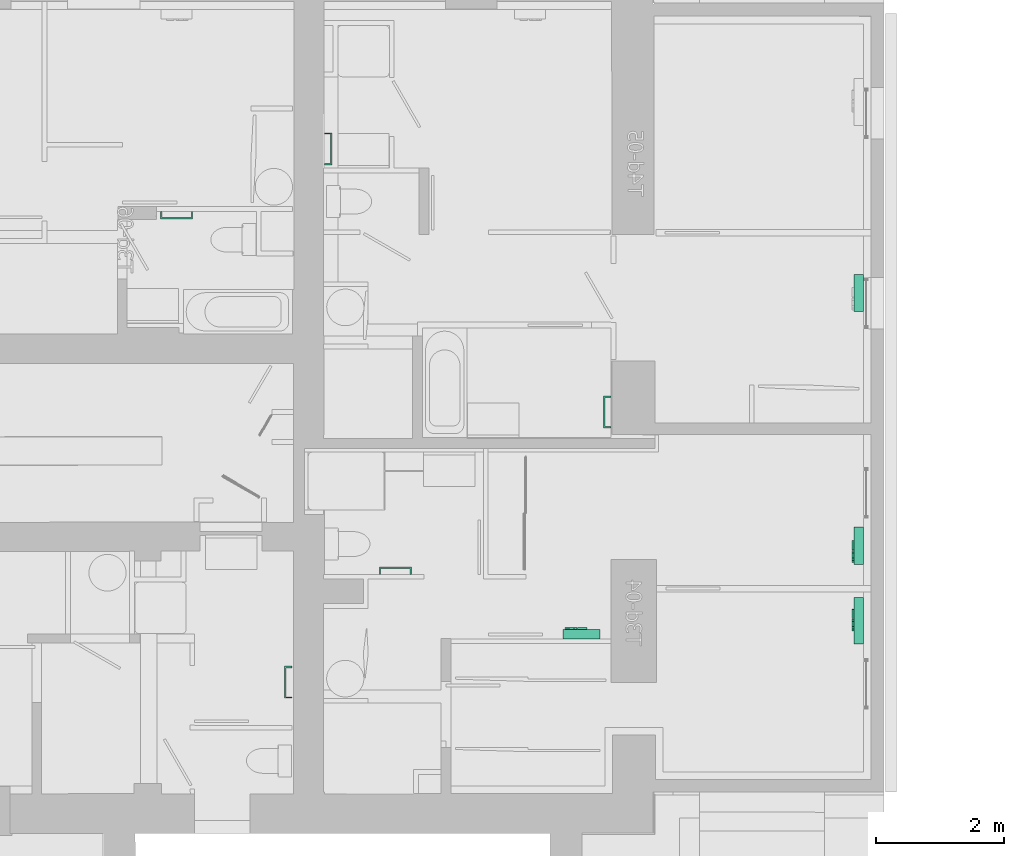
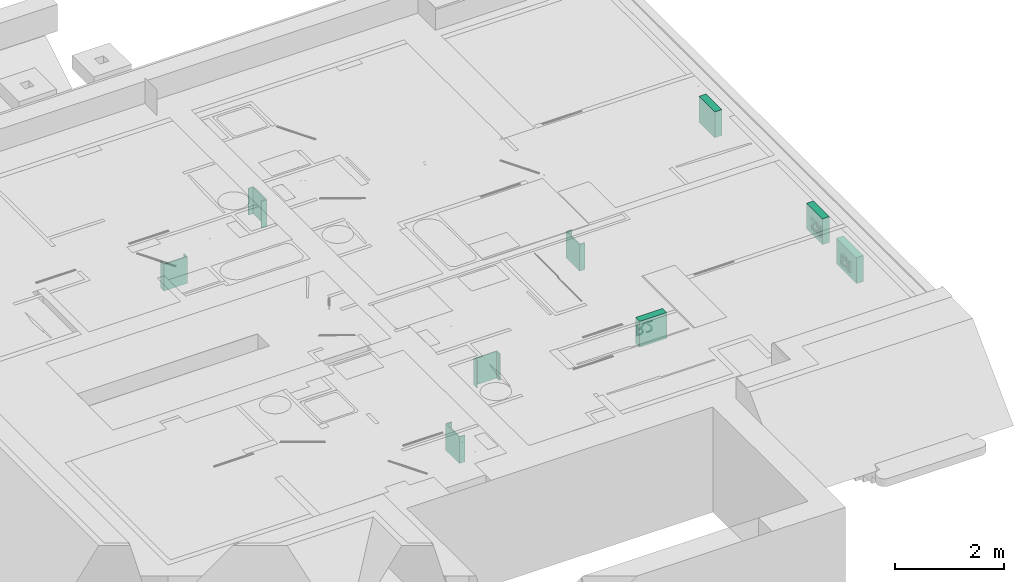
# Not in any storey, part 4 of 22: 12 distribution flow elements.
"""IFC4 model written with IfcOpenShell, lengths in metres."""

import ifcopenshell
import ifcopenshell.guid

model = None  # the IFC model being written
_history = None  # IfcOwnerHistory: only IFC2X3 demands one
_inside = {}  # id of a spatial element -> (the spatial element, [elements in it])
_under = {}  # id of a project, library or spatial element -> (it, [spatial elements below it])
_declared = {}  # id of a project -> (the project, [libraries it declares])
_typed = {}  # id of a type object -> (the type object, [elements of that type])
_made_of = {}  # id of a material, layer set ... -> (it, [elements and type objects made of it])


def new_model(schema):
    """Start an empty IFC model of exactly this schema.

    Asked for "IFC4X3", IfcOpenShell would pick the latest addendum, in which some entities
    have other attributes; the version numbers below select the first issue.
    IFC2X3 requires an IfcOwnerHistory on every rooted entity: one is made here for all.
    """
    global model, _history
    if schema == "IFC4X3":
        model = ifcopenshell.file(schema_version=(4, 3, 0, 0))
    else:
        model = ifcopenshell.file(schema=schema)
    _inside.clear()
    _under.clear()
    _declared.clear()
    _typed.clear()
    _made_of.clear()
    _history = None
    if model.schema == "IFC2X3":
        org = make("IfcOrganization", Name="unknown")
        user = make(
            "IfcPersonAndOrganization",
            ThePerson=make("IfcPerson", FamilyName="unknown"),
            TheOrganization=org,
        )
        app = make(
            "IfcApplication",
            ApplicationDeveloper=org,
            Version="unknown",
            ApplicationFullName="unknown",
            ApplicationIdentifier="unknown",
        )
        _history = make(
            "IfcOwnerHistory",
            OwningUser=user,
            OwningApplication=app,
            ChangeAction="ADDED",
            CreationDate=0,
        )
    return model


def make(cls, **values):
    """One entity of the class cls with the attributes given. An attribute that is None is left unset."""
    return model.create_entity(
        cls, **{name: value for name, value in values.items() if value is not None}
    )


def rooted(cls, **values):
    """An entity with a GlobalId (a new one), such as an element, a storey or a relation."""
    return make(cls, GlobalId=ifcopenshell.guid.new(), OwnerHistory=_history, **values)


def si_unit(unit_type, name, prefix=None):
    """IfcSIUnit, for example si_unit("LENGTHUNIT", "METRE", prefix="MILLI")."""
    return make("IfcSIUnit", UnitType=unit_type, Prefix=prefix, Name=name)


def assignment(units):
    """IfcUnitAssignment: the units of a project."""
    return None if units is None else make("IfcUnitAssignment", Units=units)


def point(xyz):
    """IfcCartesianPoint."""
    return None if xyz is None else make("IfcCartesianPoint", Coordinates=xyz)


def direction(xyz):
    """IfcDirection."""
    return None if xyz is None else make("IfcDirection", DirectionRatios=xyz)


def frame(location, z_axis=None, x_axis=None):
    """IfcAxis2Placement3D, a coordinate frame: its origin and axes. An axis left out is left unset."""
    return make(
        "IfcAxis2Placement3D",
        Location=point(location),
        Axis=direction(z_axis),
        RefDirection=direction(x_axis),
    )


def origin_with_axes():
    """The frame at (0, 0, 0) with the z axis (0, 0, 1) and the x axis (1, 0, 0) written out."""
    return frame((0.0, 0.0, 0.0), z_axis=(0.0, 0.0, 1.0), x_axis=(1.0, 0.0, 0.0))


def place(relative_to, where):
    """IfcLocalPlacement: puts the frame where relative to a parent placement (None: the world)."""
    return make(
        "IfcLocalPlacement", PlacementRelTo=relative_to, RelativePlacement=where
    )


def context(
    kind, dimensions, precision=None, world=None, true_north=None, identifier=None
):
    """IfcGeometricRepresentationContext, for example the 3D "Model" context."""
    return make(
        "IfcGeometricRepresentationContext",
        ContextIdentifier=identifier,
        ContextType=kind,
        CoordinateSpaceDimension=dimensions,
        Precision=precision,
        WorldCoordinateSystem=world,
        TrueNorth=true_north,
    )


def subcontext(parent, identifier, kind, view, scale=None):
    """IfcGeometricRepresentationSubContext, for example "Body" below "Model"."""
    return make(
        "IfcGeometricRepresentationSubContext",
        ContextIdentifier=identifier,
        ContextType=kind,
        ParentContext=parent,
        TargetScale=scale,
        TargetView=view,
    )


def project(units=None, contexts=None):
    """IfcProject with its units and contexts."""
    return rooted(
        "IfcProject",
        Name="project",
        RepresentationContexts=contexts,
        UnitsInContext=assignment(units),
    )


def faces_of(points, faces, orient=None, outer=None):
    """IfcFace entities. A face is a list of loops; a loop is a list of indices into points, from 0.

    orient and outer hold one flag for each loop. By default every Orientation is true, the
    first loop of a face is its IfcFaceOuterBound and the others are IfcFaceBound.
    """
    made = []
    for i, loops in enumerate(faces):
        bounds = []
        for j, loop in enumerate(loops):
            is_outer = j == 0 if outer is None else outer[i][j]
            bounds.append(
                make(
                    "IfcFaceOuterBound" if is_outer else "IfcFaceBound",
                    Bound=make("IfcPolyLoop", Polygon=[points[k] for k in loop]),
                    Orientation=True if orient is None else orient[i][j],
                )
            )
        made.append(make("IfcFace", Bounds=bounds))
    return made


def faceted_brep(points, faces, orient=None, outer=None, voids=None):
    """IfcFacetedBrep: a solid bounded by flat faces; with voids (closed shells), ...WithVoids."""
    shared = [point(p) for p in points]
    hull = make("IfcClosedShell", CfsFaces=faces_of(shared, faces, orient, outer))
    if voids is None:
        return make("IfcFacetedBrep", Outer=hull)
    return make(
        "IfcFacetedBrepWithVoids",
        Outer=hull,
        Voids=[
            make(cls, CfsFaces=faces_of(shared, fs, o, b)) for cls, fs, o, b in voids
        ],
    )


def shape(context_of_items, identifier, shape_type, items):
    """IfcShapeRepresentation: the items that make up one representation, for example the "Body"."""
    return make(
        "IfcShapeRepresentation",
        ContextOfItems=context_of_items,
        RepresentationIdentifier=identifier,
        RepresentationType=shape_type,
        Items=items,
    )


def made_of(thing, what):
    """Note that an element or type object is made of a material, layer set ...; save() writes the relation."""
    if what is not None:
        _made_of.setdefault(what.id(), (what, []))[1].append(thing)
    return thing


def element(
    cls,
    number,
    at=None,
    inside=None,
    cuts=None,
    type_object=None,
    material=None,
    context=None,
    identifier="Body",
    shape_type=None,
    held_by="IfcProductDefinitionShape",
    body=None,
    shapes=None,
    **own,
):
    """One element of the class cls, such as IfcWall. Its Tag is "e" and its number.

    at: its placement. inside: the storey or other place that contains it. cuts: it is an
    opening in that element (IfcRelVoidsElement). A single representation is given by context,
    identifier, shape_type and body (its items); several are given by shapes. held_by: the class
    of the entity that holds the representations. save() writes the other relations.
    """
    e = rooted(cls, Tag="e%d" % number, ObjectPlacement=at, **own)
    if body is not None:
        shapes = [shape(context, identifier, shape_type, body)]
    if shapes is not None:
        e.Representation = make(held_by, Representations=shapes)
    if inside is not None:
        _inside.setdefault(inside.id(), (inside, []))[1].append(e)
    if cuts is not None:
        rooted(
            "IfcRelVoidsElement", RelatingBuildingElement=cuts, RelatedOpeningElement=e
        )
    if type_object is not None:
        _typed.setdefault(type_object.id(), (type_object, []))[1].append(e)
    return made_of(e, material)


def aggregate(whole, parts):
    """IfcRelAggregates: a whole, such as a stair, and the parts it consists of."""
    return rooted("IfcRelAggregates", RelatingObject=whole, RelatedObjects=parts)


def save(model, path):
    """Write the relations noted so far, then the file.

    IfcRelAggregates (storeys below a building ...), IfcRelContainedInSpatialStructure (elements
    in a storey), IfcRelDefinesByType, IfcRelAssociatesMaterial and IfcRelDeclares: one each for
    every whole, place, type object, material and project.
    """
    for whole, parts in _under.values():
        aggregate(whole, parts)
    for where, things in _inside.values():
        rooted(
            "IfcRelContainedInSpatialStructure",
            RelatedElements=things,
            RelatingStructure=where,
        )
    for kind, things in _typed.values():
        rooted("IfcRelDefinesByType", RelatedObjects=things, RelatingType=kind)
    for what, things in _made_of.values():
        rooted("IfcRelAssociatesMaterial", RelatedObjects=things, RelatingMaterial=what)
    for by, libraries in _declared.values():
        rooted("IfcRelDeclares", RelatingContext=by, RelatedDefinitions=libraries)
    model.write(path)


model = new_model("IFC4")

# Units and contexts
model_context = context("Model", 3, precision=1e-05, world=origin_with_axes(), true_north=direction((1.0, 0.0)))
body_context = subcontext(model_context, "Body", "Model", "MODEL_VIEW")
ifc_project = project(units=[si_unit("LENGTHUNIT", "METRE"), si_unit("AREAUNIT", "SQUARE_METRE"), si_unit("VOLUMEUNIT", "CUBIC_METRE"), si_unit("MASSUNIT", "GRAM", prefix="KILO"), si_unit("TIMEUNIT", "SECOND"), si_unit("PLANEANGLEUNIT", "RADIAN"), si_unit("SOLIDANGLEUNIT", "STERADIAN")], contexts=[model_context])

# Distribution flow elements
placement = place(None, origin_with_axes())
element("IfcDistributionFlowElement", 1, at=placement, Name="SS", context=body_context, shape_type="Brep", body=[
    faceted_brep([(153.068451, 22.871905, 1.21), (153.068451, 22.854971, 1.21), (152.949926, 22.854971, 1.21), (152.949926, 23.354466, 1.21), (153.068451, 23.354466, 1.21), (153.068451, 23.329067, 1.21), (152.975324, 23.329067, 1.21), (152.975324, 22.871905, 1.21), (153.068451, 22.854971, 1.81), (152.949926, 22.854971, 1.81), (152.949926, 23.354466, 1.81), (153.068451, 23.354466, 1.81), (153.068451, 23.329067, 1.81), (152.975324, 23.329067, 1.81), (152.975324, 22.871905, 1.81), (153.068451, 22.871905, 1.81)], [[[0, 1, 2, 3, 4, 5, 6, 7]], [[8, 9, 2, 1]], [[9, 10, 3, 2]], [[10, 11, 4, 3]], [[12, 13, 6, 5]], [[14, 15, 0, 7]]]),
    faceted_brep([(153.068451, 22.854971, 1.81), (153.068451, 22.871905, 1.81), (152.975324, 22.871905, 1.81), (152.975324, 23.329067, 1.81), (153.068451, 23.329067, 1.81), (153.068451, 23.354466, 1.81), (152.949926, 23.354466, 1.81), (152.949926, 22.854971, 1.81), (153.068451, 22.854971, 1.21), (153.068451, 22.871905, 1.21), (153.068451, 23.329067, 1.21), (153.068451, 23.354466, 1.21), (152.975324, 22.871905, 1.21), (152.975324, 23.329067, 1.21)], [[[0, 1, 2, 3, 4, 5, 6, 7]], [[1, 0, 8, 9]], [[5, 4, 10, 11]], [[3, 2, 12, 13]]]),
])
element("IfcDistributionFlowElement", 2, at=placement, Name="SS", context=body_context, shape_type="Brep", body=[
    faceted_brep([(146.498838, 26.241369, 1.21), (146.515772, 26.241369, 1.21), (146.515772, 26.122844, 1.21), (146.016277, 26.122844, 1.21), (146.016277, 26.241369, 1.21), (146.041676, 26.241369, 1.21), (146.041676, 26.148242, 1.21), (146.498838, 26.148242, 1.21), (146.515772, 26.241369, 1.81), (146.515772, 26.122844, 1.81), (146.016277, 26.122844, 1.81), (146.016277, 26.241369, 1.81), (146.041676, 26.241369, 1.81), (146.041676, 26.148242, 1.81), (146.498838, 26.148242, 1.81), (146.498838, 26.241369, 1.81)], [[[0, 1, 2, 3, 4, 5, 6, 7]], [[8, 9, 2, 1]], [[9, 10, 3, 2]], [[10, 11, 4, 3]], [[12, 13, 6, 5]], [[14, 15, 0, 7]]]),
    faceted_brep([(146.515772, 26.241369, 1.81), (146.498838, 26.241369, 1.81), (146.498838, 26.148242, 1.81), (146.041676, 26.148242, 1.81), (146.041676, 26.241369, 1.81), (146.016277, 26.241369, 1.81), (146.016277, 26.122844, 1.81), (146.515772, 26.122844, 1.81), (146.515772, 26.241369, 1.21), (146.498838, 26.241369, 1.21), (146.041676, 26.241369, 1.21), (146.016277, 26.241369, 1.21), (146.498838, 26.148242, 1.21), (146.041676, 26.148242, 1.21)], [[[0, 1, 2, 3, 4, 5, 6, 7]], [[1, 0, 8, 9]], [[5, 4, 10, 11]], [[3, 2, 12, 13]]]),
])
element("IfcDistributionFlowElement", 3, at=placement, Name="SS", context=body_context, shape_type="Brep", body=[
    faceted_brep([(148.581474, 27.452006, 1.21), (148.581474, 27.46894, 1.21), (148.699999, 27.46894, 1.21), (148.699999, 26.969445, 1.21), (148.581474, 26.969445, 1.21), (148.581474, 26.994844, 1.21), (148.674601, 26.994844, 1.21), (148.674601, 27.452006, 1.21), (148.581474, 27.46894, 1.81), (148.699999, 27.46894, 1.81), (148.699999, 26.969445, 1.81), (148.581474, 26.969445, 1.81), (148.581474, 26.994844, 1.81), (148.674601, 26.994844, 1.81), (148.674601, 27.452006, 1.81), (148.581474, 27.452006, 1.81)], [[[0, 1, 2, 3, 4, 5, 6, 7]], [[8, 9, 2, 1]], [[9, 10, 3, 2]], [[10, 11, 4, 3]], [[12, 13, 6, 5]], [[14, 15, 0, 7]]]),
    faceted_brep([(148.581474, 27.46894, 1.81), (148.581474, 27.452006, 1.81), (148.674601, 27.452006, 1.81), (148.674601, 26.994844, 1.81), (148.581474, 26.994844, 1.81), (148.581474, 26.969445, 1.81), (148.699999, 26.969445, 1.81), (148.699999, 27.46894, 1.81), (148.581474, 27.46894, 1.21), (148.581474, 27.452006, 1.21), (148.581474, 26.994844, 1.21), (148.581474, 26.969445, 1.21), (148.674601, 27.452006, 1.21), (148.674601, 26.994844, 1.21)], [[[0, 1, 2, 3, 4, 5, 6, 7]], [[1, 0, 8, 9]], [[5, 4, 10, 11]], [[3, 2, 12, 13]]]),
])
element("IfcDistributionFlowElement", 4, at=placement, Name="SS", context=body_context, shape_type="Brep", body=[
    faceted_brep([(148.073515, 18.639168, 1.21), (148.073515, 18.622235, 1.21), (147.95499, 18.622235, 1.21), (147.95499, 19.12173, 1.21), (148.073515, 19.12173, 1.21), (148.073515, 19.09633, 1.21), (147.980388, 19.09633, 1.21), (147.980388, 18.639168, 1.21), (148.073515, 18.622235, 1.81), (147.95499, 18.622235, 1.81), (147.95499, 19.12173, 1.81), (148.073515, 19.12173, 1.81), (148.073515, 19.09633, 1.81), (147.980388, 19.09633, 1.81), (147.980388, 18.639168, 1.81), (148.073515, 18.639168, 1.81)], [[[0, 1, 2, 3, 4, 5, 6, 7]], [[8, 9, 2, 1]], [[9, 10, 3, 2]], [[10, 11, 4, 3]], [[12, 13, 6, 5]], [[14, 15, 0, 7]]]),
    faceted_brep([(148.073515, 18.622235, 1.81), (148.073515, 18.639168, 1.81), (147.980388, 18.639168, 1.81), (147.980388, 19.09633, 1.81), (148.073515, 19.09633, 1.81), (148.073515, 19.12173, 1.81), (147.95499, 19.12173, 1.81), (147.95499, 18.622235, 1.81), (148.073515, 18.622235, 1.21), (148.073515, 18.639168, 1.21), (148.073515, 19.09633, 1.21), (148.073515, 19.12173, 1.21), (147.980388, 18.639168, 1.21), (147.980388, 19.09633, 1.21)], [[[0, 1, 2, 3, 4, 5, 6, 7]], [[1, 0, 8, 9]], [[5, 4, 10, 11]], [[3, 2, 12, 13]]]),
])
element("IfcDistributionFlowElement", 5, at=placement, Name="SS", context=body_context, shape_type="Brep", body=[
    faceted_brep([(149.461939, 20.558491, 1.21), (149.445006, 20.558491, 1.21), (149.445006, 20.677015, 1.21), (149.944501, 20.677015, 1.21), (149.944501, 20.558491, 1.21), (149.919102, 20.558491, 1.21), (149.919102, 20.651617, 1.21), (149.461939, 20.651617, 1.21), (149.445006, 20.558491, 1.81), (149.445006, 20.677015, 1.81), (149.944501, 20.677015, 1.81), (149.944501, 20.558491, 1.81), (149.919102, 20.558491, 1.81), (149.919102, 20.651617, 1.81), (149.461939, 20.651617, 1.81), (149.461939, 20.558491, 1.81)], [[[0, 1, 2, 3, 4, 5, 6, 7]], [[8, 9, 2, 1]], [[9, 10, 3, 2]], [[10, 11, 4, 3]], [[12, 13, 6, 5]], [[14, 15, 0, 7]]]),
    faceted_brep([(149.445006, 20.558491, 1.81), (149.461939, 20.558491, 1.81), (149.461939, 20.651617, 1.81), (149.919102, 20.651617, 1.81), (149.919102, 20.558491, 1.81), (149.944501, 20.558491, 1.81), (149.944501, 20.677015, 1.81), (149.445006, 20.677015, 1.81), (149.445006, 20.558491, 1.21), (149.461939, 20.558491, 1.21), (149.919102, 20.558491, 1.21), (149.944501, 20.558491, 1.21), (149.461939, 20.651617, 1.21), (149.919102, 20.651617, 1.21)], [[[0, 1, 2, 3, 4, 5, 6, 7]], [[1, 0, 8, 9]], [[5, 4, 10, 11]], [[3, 2, 12, 13]]]),
])
element("IfcDistributionFlowElement", 6, at=placement, Name="Radiateur R2 73x58", context=body_context, shape_type="Brep", body=[
    faceted_brep([(157.019378, 20.717602, 2.31), (156.869378, 20.717602, 2.31), (156.869378, 20.717602, 1.73), (157.019378, 20.717602, 1.73), (156.869378, 21.297602, 2.31), (156.869378, 21.297602, 1.73), (157.019378, 21.297602, 1.73), (157.019378, 21.297602, 2.31)], [[[0, 1, 2, 3]], [[1, 4, 5, 2]], [[2, 5, 6, 3]], [[7, 0, 3, 6]], [[4, 1, 0, 7]], [[4, 7, 6, 5]]]),
])
element("IfcDistributionFlowElement", 7, at=placement, Name="R2", context=body_context, shape_type="AdvancedBrep", body=[
    faceted_brep([(156.869378, 20.93238, 2.114441), (156.869378, 20.890696, 2.114441), (156.869378, 20.814139, 2.01842), (156.869378, 20.777483, 2.01842), (156.869378, 20.777483, 2.114441), (156.869378, 20.745368, 2.114441), (156.869378, 20.745368, 1.87293), (156.869378, 20.807651, 1.87293), (156.869378, 20.842442, 1.875201), (156.869378, 20.856128, 1.878972), (156.869378, 20.869124, 1.885743), (156.869378, 20.880457, 1.895029), (156.869378, 20.889155, 1.906667), (156.869378, 20.89469, 1.921021), (156.869378, 20.896535, 1.938457), (156.869378, 20.893169, 1.962868), (156.869378, 20.888962, 1.973431), (156.869378, 20.883073, 1.982899), (156.869378, 20.867177, 1.99843), (156.869378, 20.846416, 2.009337), (156.869378, 20.86296, 1.94089), (156.869378, 20.862028, 1.930936), (156.869378, 20.85923, 1.922157), (156.869378, 20.854485, 1.914716), (156.869378, 20.847714, 1.908775), (156.869378, 20.831818, 1.902369), (156.869378, 20.809273, 1.900503), (156.869378, 20.777483, 1.900503), (156.869378, 20.777483, 1.991658), (156.869378, 20.805705, 1.991658), (156.869378, 20.830521, 1.989225), (156.869378, 20.840739, 1.985494), (156.869378, 20.849336, 1.979169), (156.869378, 20.855398, 1.971708), (156.869378, 20.859635, 1.962949), (156.869378, 21.093766, 2.114441), (156.869378, 20.944707, 2.114441), (156.869378, 20.944707, 2.080542), (156.869378, 20.975038, 2.051346), (156.869378, 21.002936, 2.022313), (156.869378, 21.02613, 1.995003), (156.869378, 21.040566, 1.973735), (156.869378, 21.048108, 1.955184), (156.869378, 21.050622, 1.936024), (156.869378, 21.047459, 1.918345), (156.869378, 21.038781, 1.905694), (156.869378, 21.025643, 1.898395), (156.869378, 21.009262, 1.895962), (156.869378, 20.991825, 1.898152), (156.869378, 20.974876, 1.903585), (156.869378, 20.961738, 1.910235), (156.869378, 20.95152, 1.916885), (156.869378, 20.949735, 1.916885), (156.869378, 20.949735, 1.8825), (156.869378, 20.977714, 1.872687), (156.869378, 20.995171, 1.869098), (156.869378, 21.011694, 1.867902), (156.869378, 21.027651, 1.869022), (156.869378, 21.041782, 1.872383), (156.869378, 21.054089, 1.877983), (156.869378, 21.064571, 1.885825), (156.869378, 21.072944, 1.895582), (156.869378, 21.078925, 1.90693), (156.869378, 21.082514, 1.919871), (156.869378, 21.08371, 1.934402), (156.869378, 21.080385, 1.960516), (156.869378, 21.071221, 1.982737), (156.869378, 21.056785, 2.00366), (156.869378, 21.038944, 2.024097), (156.869378, 21.004963, 2.058483), (156.869378, 20.975038, 2.086705), (156.869378, 21.093766, 2.086705), (156.844378, 20.890696, 2.114441), (156.844378, 20.93238, 2.114441), (156.844378, 20.846416, 2.009337), (156.844378, 20.867177, 1.99843), (156.844378, 20.883073, 1.982899), (156.844378, 20.888962, 1.973431), (156.844378, 20.893169, 1.962868), (156.844378, 20.896535, 1.938457), (156.844378, 20.89469, 1.921021), (156.844378, 20.889155, 1.906667), (156.844378, 20.880457, 1.895029), (156.844378, 20.869124, 1.885743), (156.844378, 20.856128, 1.878972), (156.844378, 20.842442, 1.875201), (156.844378, 20.807651, 1.87293), (156.844378, 20.745368, 1.87293), (156.844378, 20.745368, 2.114441), (156.844378, 20.777483, 2.114441), (156.844378, 20.777483, 2.01842), (156.844378, 20.814139, 2.01842), (156.844378, 20.862028, 1.930936), (156.844378, 20.86296, 1.94089), (156.844378, 20.859635, 1.962949), (156.844378, 20.855398, 1.971708), (156.844378, 20.849336, 1.979169), (156.844378, 20.840739, 1.985494), (156.844378, 20.830521, 1.989225), (156.844378, 20.805705, 1.991658), (156.844378, 20.777483, 1.991658), (156.844378, 20.777483, 1.900503), (156.844378, 20.809273, 1.900503), (156.844378, 20.831818, 1.902369), (156.844378, 20.847714, 1.908775), (156.844378, 20.854485, 1.914716), (156.844378, 20.85923, 1.922157), (156.844378, 20.944707, 2.114441), (156.844378, 21.093766, 2.114441), (156.844378, 21.093766, 2.086705), (156.844378, 20.975038, 2.086705), (156.844378, 21.004963, 2.058483), (156.844378, 21.038944, 2.024097), (156.844378, 21.056785, 2.00366), (156.844378, 21.071221, 1.982737), (156.844378, 21.080385, 1.960516), (156.844378, 21.08371, 1.934402), (156.844378, 21.082514, 1.919871), (156.844378, 21.078925, 1.90693), (156.844378, 21.072944, 1.895582), (156.844378, 21.064571, 1.885825), (156.844378, 21.054089, 1.877983), (156.844378, 21.041782, 1.872383), (156.844378, 21.027651, 1.869022), (156.844378, 21.011694, 1.867902), (156.844378, 20.995171, 1.869098), (156.844378, 20.977714, 1.872687), (156.844378, 20.949735, 1.8825), (156.844378, 20.949735, 1.916885), (156.844378, 20.95152, 1.916885), (156.844378, 20.961738, 1.910235), (156.844378, 20.974876, 1.903585), (156.844378, 20.991825, 1.898152), (156.844378, 21.009262, 1.895962), (156.844378, 21.025643, 1.898395), (156.844378, 21.038781, 1.905694), (156.844378, 21.047459, 1.918345), (156.844378, 21.050622, 1.936024), (156.844378, 21.048108, 1.955184), (156.844378, 21.040566, 1.973735), (156.844378, 21.02613, 1.995003), (156.844378, 21.002936, 2.022313), (156.844378, 20.975038, 2.051346), (156.844378, 20.944707, 2.080542)], [[[0, 1, 2, 3, 4, 5, 6, 7, 8, 9, 10, 11, 12, 13, 14, 15, 16, 17, 18, 19], [20, 21, 22, 23, 24, 25, 26, 27, 28, 29, 30, 31, 32, 33, 34]], [[35, 36, 37, 38, 39, 40, 41, 42, 43, 44, 45, 46, 47, 48, 49, 50, 51, 52, 53, 54, 55, 56, 57, 58, 59, 60, 61, 62, 63, 64, 65, 66, 67, 68, 69, 70, 71]], [[72, 73, 74, 75, 76, 77, 78, 79, 80, 81, 82, 83, 84, 85, 86, 87, 88, 89, 90, 91], [92, 93, 94, 95, 96, 97, 98, 99, 100, 101, 102, 103, 104, 105, 106]], [[1, 0, 73, 72]], [[2, 1, 72, 91]], [[3, 2, 91, 90]], [[4, 3, 90, 89]], [[5, 4, 89, 88]], [[6, 5, 88, 87]], [[7, 6, 87, 86]], [[8, 7, 86, 85]], [[9, 8, 85, 84]], [[10, 9, 84, 83]], [[11, 10, 83, 82]], [[12, 11, 82, 81]], [[13, 12, 81, 80]], [[14, 13, 80, 79]], [[15, 14, 79, 78]], [[16, 15, 78, 77]], [[17, 16, 77, 76]], [[18, 17, 76, 75]], [[19, 18, 75, 74]], [[0, 19, 74, 73]], [[21, 20, 93, 92]], [[22, 21, 92, 106]], [[23, 22, 106, 105]], [[24, 23, 105, 104]], [[25, 24, 104, 103]], [[26, 25, 103, 102]], [[27, 26, 102, 101]], [[28, 27, 101, 100]], [[29, 28, 100, 99]], [[30, 29, 99, 98]], [[31, 30, 98, 97]], [[32, 31, 97, 96]], [[33, 32, 96, 95]], [[34, 33, 95, 94]], [[20, 34, 94, 93]], [[107, 108, 109, 110, 111, 112, 113, 114, 115, 116, 117, 118, 119, 120, 121, 122, 123, 124, 125, 126, 127, 128, 129, 130, 131, 132, 133, 134, 135, 136, 137, 138, 139, 140, 141, 142, 143]], [[36, 35, 108, 107]], [[37, 36, 107, 143]], [[38, 37, 143, 142]], [[39, 38, 142, 141]], [[40, 39, 141, 140]], [[41, 40, 140, 139]], [[42, 41, 139, 138]], [[43, 42, 138, 137]], [[44, 43, 137, 136]], [[45, 44, 136, 135]], [[46, 45, 135, 134]], [[47, 46, 134, 133]], [[48, 47, 133, 132]], [[49, 48, 132, 131]], [[50, 49, 131, 130]], [[51, 50, 130, 129]], [[52, 51, 129, 128]], [[53, 52, 128, 127]], [[54, 53, 127, 126]], [[55, 54, 126, 125]], [[56, 55, 125, 124]], [[57, 56, 124, 123]], [[58, 57, 123, 122]], [[59, 58, 122, 121]], [[60, 59, 121, 120]], [[61, 60, 120, 119]], [[62, 61, 119, 118]], [[63, 62, 118, 117]], [[64, 63, 117, 116]], [[65, 64, 116, 115]], [[66, 65, 115, 114]], [[67, 66, 114, 113]], [[68, 67, 113, 112]], [[69, 68, 112, 111]], [[70, 69, 111, 110]], [[71, 70, 110, 109]], [[35, 71, 109, 108]]]),
])
element("IfcDistributionFlowElement", 8, at=placement, Name="Radiateur R2 73x58", context=body_context, shape_type="Brep", body=[
    faceted_brep([(152.317124, 19.55016, 2.31), (152.317124, 19.70016, 2.31), (152.317124, 19.70016, 1.73), (152.317124, 19.55016, 1.73), (152.897124, 19.70016, 2.31), (152.897124, 19.70016, 1.73), (152.897124, 19.55016, 1.73), (152.897124, 19.55016, 2.31)], [[[0, 1, 2, 3]], [[1, 4, 5, 2]], [[2, 5, 6, 3]], [[7, 0, 3, 6]], [[4, 1, 0, 7]], [[4, 7, 6, 5]]]),
])
element("IfcDistributionFlowElement", 9, at=placement, Name="R2", context=body_context, shape_type="AdvancedBrep", body=[
    faceted_brep([(152.531902, 19.70016, 2.114441), (152.490217, 19.70016, 2.114441), (152.41366, 19.70016, 2.01842), (152.377004, 19.70016, 2.01842), (152.377004, 19.70016, 2.114441), (152.344889, 19.70016, 2.114441), (152.344889, 19.70016, 1.87293), (152.407173, 19.70016, 1.87293), (152.441964, 19.70016, 1.875201), (152.455649, 19.70016, 1.878972), (152.468645, 19.70016, 1.885743), (152.479979, 19.70016, 1.895029), (152.488676, 19.70016, 1.906667), (152.494211, 19.70016, 1.921021), (152.496056, 19.70016, 1.938457), (152.492691, 19.70016, 1.962868), (152.488484, 19.70016, 1.973431), (152.482594, 19.70016, 1.982899), (152.466699, 19.70016, 1.99843), (152.445938, 19.70016, 2.009337), (152.462482, 19.70016, 1.94089), (152.461549, 19.70016, 1.930936), (152.458751, 19.70016, 1.922157), (152.454007, 19.70016, 1.914716), (152.447235, 19.70016, 1.908775), (152.43134, 19.70016, 1.902369), (152.408795, 19.70016, 1.900503), (152.377004, 19.70016, 1.900503), (152.377004, 19.70016, 1.991658), (152.405226, 19.70016, 1.991658), (152.430042, 19.70016, 1.989225), (152.440261, 19.70016, 1.985494), (152.448857, 19.70016, 1.979169), (152.454919, 19.70016, 1.971708), (152.459157, 19.70016, 1.962949), (152.693288, 19.70016, 2.114441), (152.544229, 19.70016, 2.114441), (152.544229, 19.70016, 2.080542), (152.57456, 19.70016, 2.051346), (152.602457, 19.70016, 2.022313), (152.625652, 19.70016, 1.995003), (152.640087, 19.70016, 1.973735), (152.647629, 19.70016, 1.955184), (152.650143, 19.70016, 1.936024), (152.64698, 19.70016, 1.918345), (152.638303, 19.70016, 1.905694), (152.625165, 19.70016, 1.898395), (152.608783, 19.70016, 1.895962), (152.591347, 19.70016, 1.898152), (152.574397, 19.70016, 1.903585), (152.561259, 19.70016, 1.910235), (152.551041, 19.70016, 1.916885), (152.549257, 19.70016, 1.916885), (152.549257, 19.70016, 1.8825), (152.577236, 19.70016, 1.872687), (152.594692, 19.70016, 1.869098), (152.611216, 19.70016, 1.867902), (152.627172, 19.70016, 1.869022), (152.641304, 19.70016, 1.872383), (152.65361, 19.70016, 1.877983), (152.664092, 19.70016, 1.885825), (152.672466, 19.70016, 1.895582), (152.678447, 19.70016, 1.90693), (152.682035, 19.70016, 1.919871), (152.683231, 19.70016, 1.934402), (152.679906, 19.70016, 1.960516), (152.670742, 19.70016, 1.982737), (152.656307, 19.70016, 2.00366), (152.638465, 19.70016, 2.024097), (152.604485, 19.70016, 2.058483), (152.57456, 19.70016, 2.086705), (152.693288, 19.70016, 2.086705), (152.490217, 19.72516, 2.114441), (152.531902, 19.72516, 2.114441), (152.445938, 19.72516, 2.009337), (152.466699, 19.72516, 1.99843), (152.482594, 19.72516, 1.982899), (152.488484, 19.72516, 1.973431), (152.492691, 19.72516, 1.962868), (152.496056, 19.72516, 1.938457), (152.494211, 19.72516, 1.921021), (152.488676, 19.72516, 1.906667), (152.479979, 19.72516, 1.895029), (152.468645, 19.72516, 1.885743), (152.455649, 19.72516, 1.878972), (152.441964, 19.72516, 1.875201), (152.407173, 19.72516, 1.87293), (152.344889, 19.72516, 1.87293), (152.344889, 19.72516, 2.114441), (152.377004, 19.72516, 2.114441), (152.377004, 19.72516, 2.01842), (152.41366, 19.72516, 2.01842), (152.461549, 19.72516, 1.930936), (152.462482, 19.72516, 1.94089), (152.459157, 19.72516, 1.962949), (152.454919, 19.72516, 1.971708), (152.448857, 19.72516, 1.979169), (152.440261, 19.72516, 1.985494), (152.430042, 19.72516, 1.989225), (152.405226, 19.72516, 1.991658), (152.377004, 19.72516, 1.991658), (152.377004, 19.72516, 1.900503), (152.408795, 19.72516, 1.900503), (152.43134, 19.72516, 1.902369), (152.447235, 19.72516, 1.908775), (152.454007, 19.72516, 1.914716), (152.458751, 19.72516, 1.922157), (152.544229, 19.72516, 2.114441), (152.693288, 19.72516, 2.114441), (152.693288, 19.72516, 2.086705), (152.57456, 19.72516, 2.086705), (152.604485, 19.72516, 2.058483), (152.638465, 19.72516, 2.024097), (152.656307, 19.72516, 2.00366), (152.670742, 19.72516, 1.982737), (152.679906, 19.72516, 1.960516), (152.683231, 19.72516, 1.934402), (152.682035, 19.72516, 1.919871), (152.678447, 19.72516, 1.90693), (152.672466, 19.72516, 1.895582), (152.664092, 19.72516, 1.885825), (152.65361, 19.72516, 1.877983), (152.641304, 19.72516, 1.872383), (152.627172, 19.72516, 1.869022), (152.611216, 19.72516, 1.867902), (152.594692, 19.72516, 1.869098), (152.577236, 19.72516, 1.872687), (152.549257, 19.72516, 1.8825), (152.549257, 19.72516, 1.916885), (152.551041, 19.72516, 1.916885), (152.561259, 19.72516, 1.910235), (152.574397, 19.72516, 1.903585), (152.591347, 19.72516, 1.898152), (152.608783, 19.72516, 1.895962), (152.625165, 19.72516, 1.898395), (152.638303, 19.72516, 1.905694), (152.64698, 19.72516, 1.918345), (152.650143, 19.72516, 1.936024), (152.647629, 19.72516, 1.955184), (152.640087, 19.72516, 1.973735), (152.625652, 19.72516, 1.995003), (152.602457, 19.72516, 2.022313), (152.57456, 19.72516, 2.051346), (152.544229, 19.72516, 2.080542)], [[[0, 1, 2, 3, 4, 5, 6, 7, 8, 9, 10, 11, 12, 13, 14, 15, 16, 17, 18, 19], [20, 21, 22, 23, 24, 25, 26, 27, 28, 29, 30, 31, 32, 33, 34]], [[35, 36, 37, 38, 39, 40, 41, 42, 43, 44, 45, 46, 47, 48, 49, 50, 51, 52, 53, 54, 55, 56, 57, 58, 59, 60, 61, 62, 63, 64, 65, 66, 67, 68, 69, 70, 71]], [[72, 73, 74, 75, 76, 77, 78, 79, 80, 81, 82, 83, 84, 85, 86, 87, 88, 89, 90, 91], [92, 93, 94, 95, 96, 97, 98, 99, 100, 101, 102, 103, 104, 105, 106]], [[1, 0, 73, 72]], [[2, 1, 72, 91]], [[3, 2, 91, 90]], [[4, 3, 90, 89]], [[5, 4, 89, 88]], [[6, 5, 88, 87]], [[7, 6, 87, 86]], [[8, 7, 86, 85]], [[9, 8, 85, 84]], [[10, 9, 84, 83]], [[11, 10, 83, 82]], [[12, 11, 82, 81]], [[13, 12, 81, 80]], [[14, 13, 80, 79]], [[15, 14, 79, 78]], [[16, 15, 78, 77]], [[17, 16, 77, 76]], [[18, 17, 76, 75]], [[19, 18, 75, 74]], [[0, 19, 74, 73]], [[21, 20, 93, 92]], [[22, 21, 92, 106]], [[23, 22, 106, 105]], [[24, 23, 105, 104]], [[25, 24, 104, 103]], [[26, 25, 103, 102]], [[27, 26, 102, 101]], [[28, 27, 101, 100]], [[29, 28, 100, 99]], [[30, 29, 99, 98]], [[31, 30, 98, 97]], [[32, 31, 97, 96]], [[33, 32, 96, 95]], [[34, 33, 95, 94]], [[20, 34, 94, 93]], [[107, 108, 109, 110, 111, 112, 113, 114, 115, 116, 117, 118, 119, 120, 121, 122, 123, 124, 125, 126, 127, 128, 129, 130, 131, 132, 133, 134, 135, 136, 137, 138, 139, 140, 141, 142, 143]], [[36, 35, 108, 107]], [[37, 36, 107, 143]], [[38, 37, 143, 142]], [[39, 38, 142, 141]], [[40, 39, 141, 140]], [[41, 40, 140, 139]], [[42, 41, 139, 138]], [[43, 42, 138, 137]], [[44, 43, 137, 136]], [[45, 44, 136, 135]], [[46, 45, 135, 134]], [[47, 46, 134, 133]], [[48, 47, 133, 132]], [[49, 48, 132, 131]], [[50, 49, 131, 130]], [[51, 50, 130, 129]], [[52, 51, 129, 128]], [[53, 52, 128, 127]], [[54, 53, 127, 126]], [[55, 54, 126, 125]], [[56, 55, 125, 124]], [[57, 56, 124, 123]], [[58, 57, 123, 122]], [[59, 58, 122, 121]], [[60, 59, 121, 120]], [[61, 60, 120, 119]], [[62, 61, 119, 118]], [[63, 62, 118, 117]], [[64, 63, 117, 116]], [[65, 64, 116, 115]], [[66, 65, 115, 114]], [[67, 66, 114, 113]], [[68, 67, 113, 112]], [[69, 68, 112, 111]], [[70, 69, 111, 110]], [[71, 70, 110, 109]], [[35, 71, 109, 108]]]),
])
element("IfcDistributionFlowElement", 10, at=placement, Name="Radiateur R3 73x58", context=body_context, shape_type="Brep", body=[
    faceted_brep([(157.019465, 19.468421, 2.193083), (156.869465, 19.468421, 2.193083), (156.869465, 19.468421, 1.613083), (157.019465, 19.468421, 1.613083), (156.869465, 20.198421, 2.193083), (156.869465, 20.198421, 1.613083), (157.019465, 20.198421, 2.193083), (157.019465, 20.198421, 1.613083)], [[[0, 1, 2, 3]], [[1, 4, 5, 2]], [[4, 6, 7, 5]], [[6, 0, 3, 7]], [[2, 5, 7, 3]], [[4, 1, 0, 6]]]),
])
element("IfcDistributionFlowElement", 11, at=placement, Name="R3", context=body_context, shape_type="AdvancedBrep", body=[
    faceted_brep([(156.869465, 19.861351, 1.982204), (156.869465, 19.819666, 1.982204), (156.869465, 19.74311, 1.886183), (156.869465, 19.706453, 1.886183), (156.869465, 19.706453, 1.982204), (156.869465, 19.674338, 1.982204), (156.869465, 19.674338, 1.740693), (156.869465, 19.736622, 1.740693), (156.869465, 19.771413, 1.742964), (156.869465, 19.785098, 1.746735), (156.869465, 19.798094, 1.753507), (156.869465, 19.809428, 1.762792), (156.869465, 19.818126, 1.77443), (156.869465, 19.823661, 1.788784), (156.869465, 19.825506, 1.80622), (156.869465, 19.82214, 1.830631), (156.869465, 19.817933, 1.841194), (156.869465, 19.812043, 1.850662), (156.869465, 19.796148, 1.866193), (156.869465, 19.775387, 1.8771), (156.869465, 19.791931, 1.808653), (156.869465, 19.790998, 1.798699), (156.869465, 19.7882, 1.78992), (156.869465, 19.783456, 1.782479), (156.869465, 19.776684, 1.776538), (156.869465, 19.760789, 1.770132), (156.869465, 19.738244, 1.768266), (156.869465, 19.706453, 1.768266), (156.869465, 19.706453, 1.859421), (156.869465, 19.734675, 1.859421), (156.869465, 19.759491, 1.856988), (156.869465, 19.76971, 1.853257), (156.869465, 19.778306, 1.846932), (156.869465, 19.784368, 1.839471), (156.869465, 19.788606, 1.830712), (156.869465, 19.938881, 1.763725), (156.869465, 19.921364, 1.765833), (156.869465, 19.904171, 1.771348), (156.869465, 19.890627, 1.77816), (156.869465, 19.880328, 1.78481), (156.869465, 19.878382, 1.78481), (156.869465, 19.878382, 1.750587), (156.869465, 19.907009, 1.740287), (156.869465, 19.924669, 1.736821), (156.869465, 19.941476, 1.735665), (156.869465, 19.970104, 1.73899), (156.869465, 19.981762, 1.743227), (156.869465, 19.992244, 1.749289), (156.869465, 20.001631, 1.757886), (156.869465, 20.008382, 1.768104), (156.869465, 20.012457, 1.780066), (156.869465, 20.013816, 1.793893), (156.869465, 20.010531, 1.812627), (156.869465, 20.000678, 1.828928), (156.869465, 19.986242, 1.841255), (156.869465, 19.969212, 1.848067), (156.869465, 19.969212, 1.850338), (156.869465, 19.985513, 1.855366), (156.869465, 20.001651, 1.865909), (156.869465, 20.008423, 1.873877), (156.869465, 20.013816, 1.883832), (156.869465, 20.017344, 1.895976), (156.869465, 20.01852, 1.910513), (156.869465, 20.017121, 1.926226), (156.869465, 20.012924, 1.9406), (156.869465, 20.006172, 1.953515), (156.869465, 19.99711, 1.964849), (156.869465, 19.985472, 1.97454), (156.869465, 19.971645, 1.981555), (156.869465, 19.955709, 1.985813), (156.869465, 19.937746, 1.987232), (156.869465, 19.919661, 1.986137), (156.869465, 19.901738, 1.982853), (156.869465, 19.871732, 1.97231), (156.869465, 19.871732, 1.938086), (156.869465, 19.874002, 1.938086), (156.869465, 19.901414, 1.95236), (156.869465, 19.918606, 1.957469), (156.869465, 19.935799, 1.959172), (156.869465, 19.955668, 1.956009), (156.869465, 19.964812, 1.951853), (156.869465, 19.972294, 1.94571), (156.869465, 19.982188, 1.929976), (156.869465, 19.984742, 1.920245), (156.869465, 19.985594, 1.908242), (156.869465, 19.984641, 1.89628), (156.869465, 19.981782, 1.88667), (156.869465, 19.97722, 1.879128), (156.869465, 19.971158, 1.87337), (156.869465, 19.95502, 1.866639), (156.869465, 19.934826, 1.864773), (156.869465, 19.921039, 1.864773), (156.869465, 19.921039, 1.837849), (156.869465, 19.931744, 1.837849), (156.869465, 19.951593, 1.835254), (156.869465, 19.967347, 1.827468), (156.869465, 19.973343, 1.82169), (156.869465, 19.977626, 1.814736), (156.869465, 19.980196, 1.806606), (156.869465, 19.981052, 1.7973), (156.869465, 19.98016, 1.788845), (156.869465, 19.977484, 1.781648), (156.869465, 19.968401, 1.771186), (156.869465, 19.954776, 1.765347), (156.844465, 19.819666, 1.982204), (156.844465, 19.861351, 1.982204), (156.844465, 19.775387, 1.8771), (156.844465, 19.796148, 1.866193), (156.844465, 19.812043, 1.850662), (156.844465, 19.817933, 1.841194), (156.844465, 19.82214, 1.830631), (156.844465, 19.825506, 1.80622), (156.844465, 19.823661, 1.788784), (156.844465, 19.818126, 1.77443), (156.844465, 19.809428, 1.762792), (156.844465, 19.798094, 1.753507), (156.844465, 19.785098, 1.746735), (156.844465, 19.771413, 1.742964), (156.844465, 19.736622, 1.740693), (156.844465, 19.674338, 1.740693), (156.844465, 19.674338, 1.982204), (156.844465, 19.706453, 1.982204), (156.844465, 19.706453, 1.886183), (156.844465, 19.74311, 1.886183), (156.844465, 19.790998, 1.798699), (156.844465, 19.791931, 1.808653), (156.844465, 19.788606, 1.830712), (156.844465, 19.784368, 1.839471), (156.844465, 19.778306, 1.846932), (156.844465, 19.76971, 1.853257), (156.844465, 19.759491, 1.856988), (156.844465, 19.734675, 1.859421), (156.844465, 19.706453, 1.859421), (156.844465, 19.706453, 1.768266), (156.844465, 19.738244, 1.768266), (156.844465, 19.760789, 1.770132), (156.844465, 19.776684, 1.776538), (156.844465, 19.783456, 1.782479), (156.844465, 19.7882, 1.78992), (156.844465, 19.921364, 1.765833), (156.844465, 19.938881, 1.763725), (156.844465, 19.954776, 1.765347), (156.844465, 19.968401, 1.771186), (156.844465, 19.977484, 1.781648), (156.844465, 19.98016, 1.788845), (156.844465, 19.981052, 1.7973), (156.844465, 19.980196, 1.806606), (156.844465, 19.977626, 1.814736), (156.844465, 19.973343, 1.82169), (156.844465, 19.967347, 1.827468), (156.844465, 19.951593, 1.835254), (156.844465, 19.931744, 1.837849), (156.844465, 19.921039, 1.837849), (156.844465, 19.921039, 1.864773), (156.844465, 19.934826, 1.864773), (156.844465, 19.95502, 1.866639), (156.844465, 19.971158, 1.87337), (156.844465, 19.97722, 1.879128), (156.844465, 19.981782, 1.88667), (156.844465, 19.984641, 1.89628), (156.844465, 19.985594, 1.908242), (156.844465, 19.984742, 1.920245), (156.844465, 19.982188, 1.929976), (156.844465, 19.972294, 1.94571), (156.844465, 19.964812, 1.951853), (156.844465, 19.955668, 1.956009), (156.844465, 19.935799, 1.959172), (156.844465, 19.918606, 1.957469), (156.844465, 19.901414, 1.95236), (156.844465, 19.874002, 1.938086), (156.844465, 19.871732, 1.938086), (156.844465, 19.871732, 1.97231), (156.844465, 19.901738, 1.982853), (156.844465, 19.919661, 1.986137), (156.844465, 19.937746, 1.987232), (156.844465, 19.955709, 1.985813), (156.844465, 19.971645, 1.981555), (156.844465, 19.985472, 1.97454), (156.844465, 19.99711, 1.964849), (156.844465, 20.006172, 1.953515), (156.844465, 20.012924, 1.9406), (156.844465, 20.017121, 1.926226), (156.844465, 20.01852, 1.910513), (156.844465, 20.017344, 1.895976), (156.844465, 20.013816, 1.883832), (156.844465, 20.008423, 1.873877), (156.844465, 20.001651, 1.865909), (156.844465, 19.985513, 1.855366), (156.844465, 19.969212, 1.850338), (156.844465, 19.969212, 1.848067), (156.844465, 19.986242, 1.841255), (156.844465, 20.000678, 1.828928), (156.844465, 20.010531, 1.812627), (156.844465, 20.013816, 1.793893), (156.844465, 20.012457, 1.780066), (156.844465, 20.008382, 1.768104), (156.844465, 20.001631, 1.757886), (156.844465, 19.992244, 1.749289), (156.844465, 19.981762, 1.743227), (156.844465, 19.970104, 1.73899), (156.844465, 19.941476, 1.735665), (156.844465, 19.924669, 1.736821), (156.844465, 19.907009, 1.740287), (156.844465, 19.878382, 1.750587), (156.844465, 19.878382, 1.78481), (156.844465, 19.880328, 1.78481), (156.844465, 19.890627, 1.77816), (156.844465, 19.904171, 1.771348)], [[[0, 1, 2, 3, 4, 5, 6, 7, 8, 9, 10, 11, 12, 13, 14, 15, 16, 17, 18, 19], [20, 21, 22, 23, 24, 25, 26, 27, 28, 29, 30, 31, 32, 33, 34]], [[35, 36, 37, 38, 39, 40, 41, 42, 43, 44, 45, 46, 47, 48, 49, 50, 51, 52, 53, 54, 55, 56, 57, 58, 59, 60, 61, 62, 63, 64, 65, 66, 67, 68, 69, 70, 71, 72, 73, 74, 75, 76, 77, 78, 79, 80, 81, 82, 83, 84, 85, 86, 87, 88, 89, 90, 91, 92, 93, 94, 95, 96, 97, 98, 99, 100, 101, 102, 103]], [[104, 105, 106, 107, 108, 109, 110, 111, 112, 113, 114, 115, 116, 117, 118, 119, 120, 121, 122, 123], [124, 125, 126, 127, 128, 129, 130, 131, 132, 133, 134, 135, 136, 137, 138]], [[1, 0, 105, 104]], [[2, 1, 104, 123]], [[3, 2, 123, 122]], [[4, 3, 122, 121]], [[5, 4, 121, 120]], [[6, 5, 120, 119]], [[7, 6, 119, 118]], [[8, 7, 118, 117]], [[9, 8, 117, 116]], [[10, 9, 116, 115]], [[11, 10, 115, 114]], [[12, 11, 114, 113]], [[13, 12, 113, 112]], [[14, 13, 112, 111]], [[15, 14, 111, 110]], [[16, 15, 110, 109]], [[17, 16, 109, 108]], [[18, 17, 108, 107]], [[19, 18, 107, 106]], [[0, 19, 106, 105]], [[21, 20, 125, 124]], [[22, 21, 124, 138]], [[23, 22, 138, 137]], [[24, 23, 137, 136]], [[25, 24, 136, 135]], [[26, 25, 135, 134]], [[27, 26, 134, 133]], [[28, 27, 133, 132]], [[29, 28, 132, 131]], [[30, 29, 131, 130]], [[31, 30, 130, 129]], [[32, 31, 129, 128]], [[33, 32, 128, 127]], [[34, 33, 127, 126]], [[20, 34, 126, 125]], [[139, 140, 141, 142, 143, 144, 145, 146, 147, 148, 149, 150, 151, 152, 153, 154, 155, 156, 157, 158, 159, 160, 161, 162, 163, 164, 165, 166, 167, 168, 169, 170, 171, 172, 173, 174, 175, 176, 177, 178, 179, 180, 181, 182, 183, 184, 185, 186, 187, 188, 189, 190, 191, 192, 193, 194, 195, 196, 197, 198, 199, 200, 201, 202, 203, 204, 205, 206, 207]], [[36, 35, 140, 139]], [[37, 36, 139, 207]], [[38, 37, 207, 206]], [[39, 38, 206, 205]], [[40, 39, 205, 204]], [[41, 40, 204, 203]], [[42, 41, 203, 202]], [[43, 42, 202, 201]], [[44, 43, 201, 200]], [[45, 44, 200, 199]], [[46, 45, 199, 198]], [[47, 46, 198, 197]], [[48, 47, 197, 196]], [[49, 48, 196, 195]], [[50, 49, 195, 194]], [[51, 50, 194, 193]], [[52, 51, 193, 192]], [[53, 52, 192, 191]], [[54, 53, 191, 190]], [[55, 54, 190, 189]], [[56, 55, 189, 188]], [[57, 56, 188, 187]], [[58, 57, 187, 186]], [[59, 58, 186, 185]], [[60, 59, 185, 184]], [[61, 60, 184, 183]], [[62, 61, 183, 182]], [[63, 62, 182, 181]], [[64, 63, 181, 180]], [[65, 64, 180, 179]], [[66, 65, 179, 178]], [[67, 66, 178, 177]], [[68, 67, 177, 176]], [[69, 68, 176, 175]], [[70, 69, 175, 174]], [[71, 70, 174, 173]], [[72, 71, 173, 172]], [[73, 72, 172, 171]], [[74, 73, 171, 170]], [[75, 74, 170, 169]], [[76, 75, 169, 168]], [[77, 76, 168, 167]], [[78, 77, 167, 166]], [[79, 78, 166, 165]], [[80, 79, 165, 164]], [[81, 80, 164, 163]], [[82, 81, 163, 162]], [[83, 82, 162, 161]], [[84, 83, 161, 160]], [[85, 84, 160, 159]], [[86, 85, 159, 158]], [[87, 86, 158, 157]], [[88, 87, 157, 156]], [[89, 88, 156, 155]], [[90, 89, 155, 154]], [[91, 90, 154, 153]], [[92, 91, 153, 152]], [[93, 92, 152, 151]], [[94, 93, 151, 150]], [[95, 94, 150, 149]], [[96, 95, 149, 148]], [[97, 96, 148, 147]], [[98, 97, 147, 146]], [[99, 98, 146, 145]], [[100, 99, 145, 144]], [[101, 100, 144, 143]], [[102, 101, 143, 142]], [[103, 102, 142, 141]], [[35, 103, 141, 140]]]),
])
element("IfcDistributionFlowElement", 12, at=placement, Name="Radiateur R2 73x58", context=body_context, shape_type="Brep", body=[
    faceted_brep([(157.019378, 24.672602, 2.31), (156.869378, 24.672602, 2.31), (156.869378, 24.672602, 1.73), (157.019378, 24.672602, 1.73), (156.869378, 25.252602, 2.31), (156.869378, 25.252602, 1.73), (157.019378, 25.252602, 1.73), (157.019378, 25.252602, 2.31)], [[[0, 1, 2, 3]], [[1, 4, 5, 2]], [[2, 5, 6, 3]], [[7, 0, 3, 6]], [[4, 1, 0, 7]], [[4, 7, 6, 5]]]),
])

save(model, "model.ifc")
